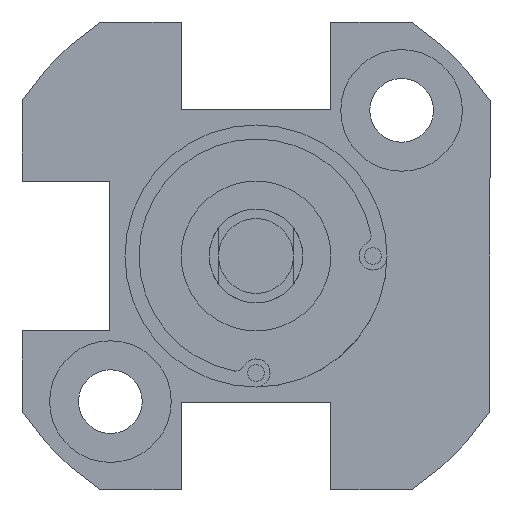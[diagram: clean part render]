
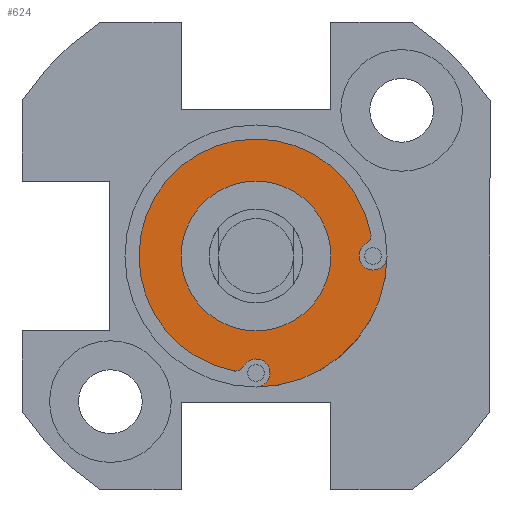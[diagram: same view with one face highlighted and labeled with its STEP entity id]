
A CAD part, front view. The second image highlights one B-rep face of the part: STEP entity #624.
In plain terms, the highlighted planar face has unit normal (0, -1, 0).
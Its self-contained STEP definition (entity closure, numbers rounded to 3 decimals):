
#21 = CARTESIAN_POINT ( 'NONE',  ( -0.656, -40., -5.887 ) ) ;
#54 = EDGE_CURVE ( 'NONE', #919, #696, #3065, .T. ) ;
#62 = AXIS2_PLACEMENT_3D ( 'NONE', #1476, #1232, #2559 ) ;
#120 = EDGE_CURVE ( 'NONE', #721, #3237, #1290, .T. ) ;
#205 = AXIS2_PLACEMENT_3D ( 'NONE', #1874, #2117, #2659 ) ;
#221 = EDGE_CURVE ( 'NONE', #790, #2832, #486, .T. ) ;
#292 = EDGE_CURVE ( 'NONE', #2547, #2832, #1652, .T. ) ;
#314 = CARTESIAN_POINT ( 'NONE',  ( 0., -40., 0. ) ) ;
#330 = ORIENTED_EDGE ( 'NONE', *, *, #292, .F. ) ;
#399 = DIRECTION ( 'NONE',  ( 0., 0., 1. ) ) ;
#425 = EDGE_LOOP ( 'NONE', ( #3299, #2725, #2639, #2055, #493, #2211, #1783, #330 ) ) ;
#443 = DIRECTION ( 'NONE',  ( 0., 0., 1. ) ) ;
#471 = CARTESIAN_POINT ( 'NONE',  ( 0., -40., -7. ) ) ;
#486 = CIRCLE ( 'NONE', #1673, 0.75 ) ;
#493 = ORIENTED_EDGE ( 'NONE', *, *, #1071, .T. ) ;
#624 = ADVANCED_FACE ( 'NONE', ( #1208, #2831 ), #3241, .T. ) ;
#630 = CARTESIAN_POINT ( 'NONE',  ( 6.25, -40., 0. ) ) ;
#637 = AXIS2_PLACEMENT_3D ( 'NONE', #2887, #1102, #2653 ) ;
#696 = VERTEX_POINT ( 'NONE', #2759 ) ;
#721 = VERTEX_POINT ( 'NONE', #2257 ) ;
#761 = ORIENTED_EDGE ( 'NONE', *, *, #2241, .T. ) ;
#790 = VERTEX_POINT ( 'NONE', #21 ) ;
#791 = AXIS2_PLACEMENT_3D ( 'NONE', #2501, #2691, #2207 ) ;
#802 = EDGE_CURVE ( 'NONE', #2944, #2511, #1898, .T. ) ;
#820 = DIRECTION ( 'NONE',  ( 0., 1., 0. ) ) ;
#860 = AXIS2_PLACEMENT_3D ( 'NONE', #2717, #2974, #1446 ) ;
#882 = ORIENTED_EDGE ( 'NONE', *, *, #120, .T. ) ;
#919 = VERTEX_POINT ( 'NONE', #1827 ) ;
#945 = DIRECTION ( 'NONE',  ( 0., 0., 1. ) ) ;
#981 = EDGE_CURVE ( 'NONE', #1186, #790, #1765, .T. ) ;
#992 = EDGE_LOOP ( 'NONE', ( #882, #761 ) ) ;
#1036 = CIRCLE ( 'NONE', #860, 4. ) ;
#1071 = EDGE_CURVE ( 'NONE', #919, #1186, #2374, .T. ) ;
#1074 = CARTESIAN_POINT ( 'NONE',  ( 0., -40., -6.25 ) ) ;
#1102 = DIRECTION ( 'NONE',  ( 0., -1., 0. ) ) ;
#1121 = DIRECTION ( 'NONE',  ( 0., 0., 1. ) ) ;
#1186 = VERTEX_POINT ( 'NONE', #1207 ) ;
#1203 = AXIS2_PLACEMENT_3D ( 'NONE', #2956, #1920, #443 ) ;
#1207 = CARTESIAN_POINT ( 'NONE',  ( -1.094, -40., -6.145 ) ) ;
#1208 = FACE_OUTER_BOUND ( 'NONE', #425, .T. ) ;
#1232 = DIRECTION ( 'NONE',  ( 0., 1., 0. ) ) ;
#1283 = EDGE_CURVE ( 'NONE', #2547, #2944, #2543, .T. ) ;
#1290 = CIRCLE ( 'NONE', #205, 4. ) ;
#1446 = DIRECTION ( 'NONE',  ( 0., 0., 1. ) ) ;
#1476 = CARTESIAN_POINT ( 'NONE',  ( 6.25, -40., 0. ) ) ;
#1652 = CIRCLE ( 'NONE', #1203, 7. ) ;
#1673 = AXIS2_PLACEMENT_3D ( 'NONE', #1074, #2672, #1121 ) ;
#1715 = DIRECTION ( 'NONE',  ( 0., -1., 0. ) ) ;
#1765 = CIRCLE ( 'NONE', #637, 0.5 ) ;
#1783 = ORIENTED_EDGE ( 'NONE', *, *, #221, .T. ) ;
#1827 = CARTESIAN_POINT ( 'NONE',  ( -1.189, -40., -6.136 ) ) ;
#1874 = CARTESIAN_POINT ( 'NONE',  ( 0., -40., 0. ) ) ;
#1898 = CIRCLE ( 'NONE', #62, 0.75 ) ;
#1908 = DIRECTION ( 'NONE',  ( 0., 1., 0. ) ) ;
#1920 = DIRECTION ( 'NONE',  ( 0., 1., 0. ) ) ;
#2055 = ORIENTED_EDGE ( 'NONE', *, *, #54, .F. ) ;
#2087 = AXIS2_PLACEMENT_3D ( 'NONE', #630, #1908, #399 ) ;
#2117 = DIRECTION ( 'NONE',  ( 0., 1., 0. ) ) ;
#2158 = CARTESIAN_POINT ( 'NONE',  ( 0., -40., 4. ) ) ;
#2207 = DIRECTION ( 'NONE',  ( 0., 0., -1. ) ) ;
#2211 = ORIENTED_EDGE ( 'NONE', *, *, #981, .T. ) ;
#2241 = EDGE_CURVE ( 'NONE', #3237, #721, #1036, .T. ) ;
#2257 = CARTESIAN_POINT ( 'NONE',  ( 0., -40., -4. ) ) ;
#2334 = DIRECTION ( 'NONE',  ( 0., 0., -1. ) ) ;
#2340 = AXIS2_PLACEMENT_3D ( 'NONE', #2733, #1715, #945 ) ;
#2364 = CIRCLE ( 'NONE', #3127, 0.5 ) ;
#2374 = CIRCLE ( 'NONE', #791, 0.5 ) ;
#2501 = CARTESIAN_POINT ( 'NONE',  ( -1.094, -40., -5.645 ) ) ;
#2511 = VERTEX_POINT ( 'NONE', #2792 ) ;
#2543 = CIRCLE ( 'NONE', #2087, 0.75 ) ;
#2547 = VERTEX_POINT ( 'NONE', #2781 ) ;
#2559 = DIRECTION ( 'NONE',  ( 0., 0., 1. ) ) ;
#2606 = DIRECTION ( 'NONE',  ( 0., 0., 1. ) ) ;
#2639 = ORIENTED_EDGE ( 'NONE', *, *, #2975, .T. ) ;
#2653 = DIRECTION ( 'NONE',  ( 0., 0., -1. ) ) ;
#2659 = DIRECTION ( 'NONE',  ( 0., 0., 1. ) ) ;
#2672 = DIRECTION ( 'NONE',  ( 0., 1., 0. ) ) ;
#2691 = DIRECTION ( 'NONE',  ( 0., -1., 0. ) ) ;
#2717 = CARTESIAN_POINT ( 'NONE',  ( 0., -40., 0. ) ) ;
#2725 = ORIENTED_EDGE ( 'NONE', *, *, #802, .T. ) ;
#2733 = CARTESIAN_POINT ( 'NONE',  ( 0., -40., 0. ) ) ;
#2759 = CARTESIAN_POINT ( 'NONE',  ( 6.136, -40., 1.189 ) ) ;
#2781 = CARTESIAN_POINT ( 'NONE',  ( 7., -40., 0. ) ) ;
#2792 = CARTESIAN_POINT ( 'NONE',  ( 5.887, -40., 0.656 ) ) ;
#2831 = FACE_BOUND ( 'NONE', #992, .T. ) ;
#2832 = VERTEX_POINT ( 'NONE', #471 ) ;
#2887 = CARTESIAN_POINT ( 'NONE',  ( -1.094, -40., -5.645 ) ) ;
#2891 = AXIS2_PLACEMENT_3D ( 'NONE', #314, #820, #2606 ) ;
#2944 = VERTEX_POINT ( 'NONE', #3066 ) ;
#2956 = CARTESIAN_POINT ( 'NONE',  ( 0., -40., 0. ) ) ;
#2974 = DIRECTION ( 'NONE',  ( 0., 1., 0. ) ) ;
#2975 = EDGE_CURVE ( 'NONE', #2511, #696, #2364, .T. ) ;
#3065 = CIRCLE ( 'NONE', #2891, 6.25 ) ;
#3066 = CARTESIAN_POINT ( 'NONE',  ( 6.25, -40., -0.75 ) ) ;
#3099 = CARTESIAN_POINT ( 'NONE',  ( 5.645, -40., 1.094 ) ) ;
#3117 = DIRECTION ( 'NONE',  ( 0., -1., 0. ) ) ;
#3127 = AXIS2_PLACEMENT_3D ( 'NONE', #3099, #3117, #2334 ) ;
#3237 = VERTEX_POINT ( 'NONE', #2158 ) ;
#3241 = PLANE ( 'NONE',  #2340 ) ;
#3299 = ORIENTED_EDGE ( 'NONE', *, *, #1283, .T. ) ;
